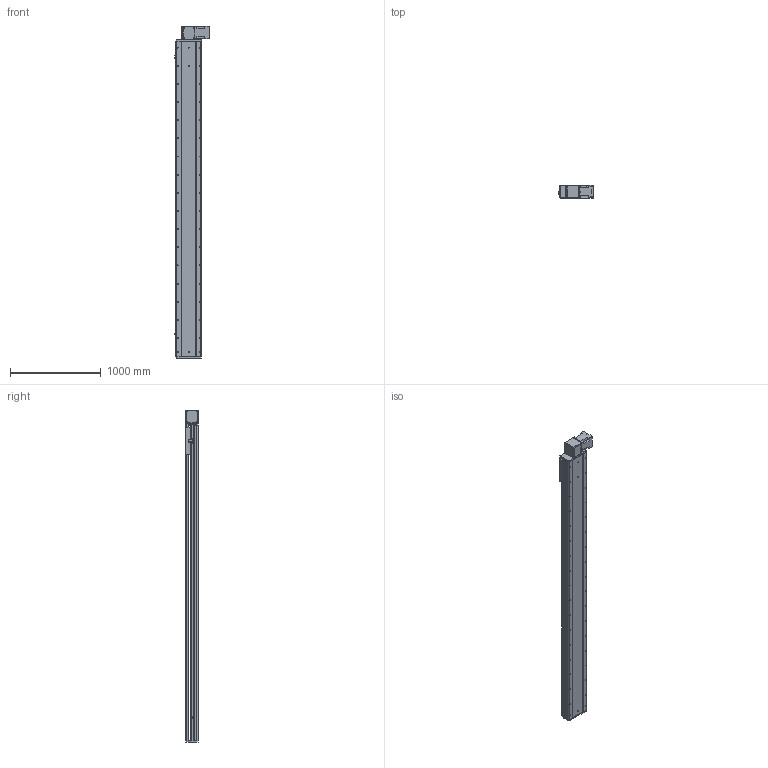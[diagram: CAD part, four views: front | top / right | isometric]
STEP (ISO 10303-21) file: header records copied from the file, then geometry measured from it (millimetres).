
FILE_DESCRIPTION (( 'STEP AP214' ), '1' );
FILE_NAME ('RTB28S-XX-3050-BL-M100-XX-C4.STEP', '2025-12-22T02:36:43', ( '' ), ( '' ), 'SwSTEP 2.0', 'SolidWorks 2018', '' );
FILE_SCHEMA (( 'AUTOMOTIVE_DESIGN' ));
Length unit declared in the file: millimetre
Products named in the file (4): RTB28S-GY-008^RTB28S-XX-XX-BL-M100-XX-C4; RTB28S-GY-004^RTB28S-XX-XX-BL-M100-XX-C4; RTB28S-XX-3050-BL-M100-XX-C4; RTB28S-GY-011^RTB28S-XX-XX-BL-M100-XX-C4
Assembly tree (3 placements, depth 2):
  RTB28S-XX-3050-BL-M100-XX-C4
    RTB28S-GY-011^RTB28S-XX-XX-BL-M100-XX-C4
    RTB28S-GY-004^RTB28S-XX-XX-BL-M100-XX-C4
    RTB28S-GY-008^RTB28S-XX-XX-BL-M100-XX-C4
Bounding box: 380.7 x 145 x 3657 mm (x, y, z)
Volume: 61899620.9 mm3; surface area: 5774233.6 mm2
Topology: 3 solids, 4 shells, 888 faces, 2388 edges, 1528 vertices
Faces by surface type: cylinder 439, plane 365, cone 80, torus 4
Entity records: 34373 total; most frequent: CARTESIAN_POINT 6502, DIRECTION 5082, ORIENTED_EDGE 4712, EDGE_CURVE 2356, AXIS2_PLACEMENT_3D 1876, VERTEX_POINT 1528, VECTOR 1330, LINE 1330
